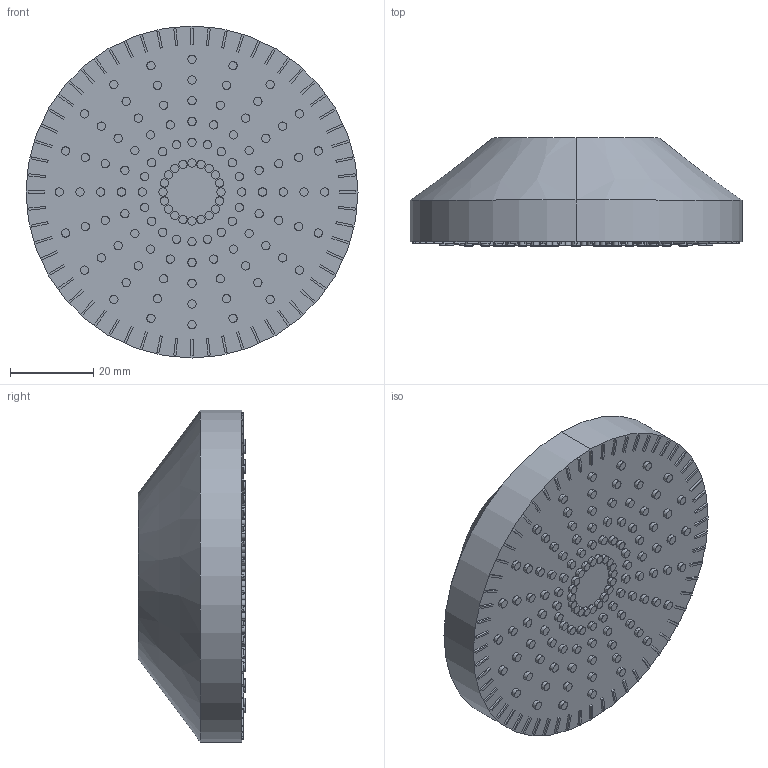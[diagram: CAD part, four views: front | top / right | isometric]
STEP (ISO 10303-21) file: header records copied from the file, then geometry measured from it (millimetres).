
FILE_DESCRIPTION (( 'STEP AP203' ), '1' );
FILE_NAME ('CP-FM80.STEP', '2018-03-16T12:30:46', ( '' ), ( '' ), 'SwSTEP 2.0', 'SolidWorks 2013', '' );
FILE_SCHEMA (( 'CONFIG_CONTROL_DESIGN' ));
Length unit declared in the file: millimetre
Products named in the file (1): CP-FM80
Bounding box: 80 x 26 x 80 mm (x, y, z)
Volume: 93762.7 mm3; surface area: 14773.4 mm2
Topology: 1 solids, 1 shells, 668 faces, 1459 edges, 972 vertices
Faces by surface type: plane 422, cylinder 242, sphere 2, cone 2
Entity records: 18397 total; most frequent: DIRECTION 3282, CARTESIAN_POINT 3092, ORIENTED_EDGE 2908, EDGE_CURVE 1454, AXIS2_PLACEMENT_3D 1159, VERTEX_POINT 969, VECTOR 964, LINE 964
